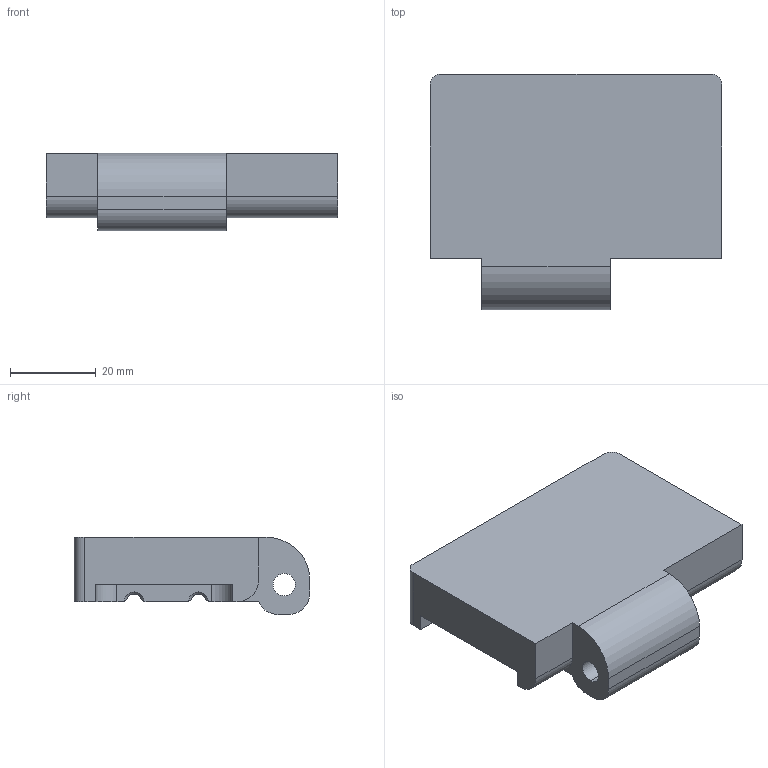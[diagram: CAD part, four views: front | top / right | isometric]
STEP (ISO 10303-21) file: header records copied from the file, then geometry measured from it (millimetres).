
FILE_DESCRIPTION (( 'STEP AP214' ), '1' );
FILE_NAME ('GZ29.18_V1上压块.STEP', '2021-05-09T07:30:05', ( '微软中国' ), ( 'Microsoft' ), 'SwSTEP 2.0', 'SolidWorks 2017', '' );
FILE_SCHEMA (( 'AUTOMOTIVE_DESIGN' ));
Length unit declared in the file: millimetre
Products named in the file (1): GZ29.18_V1奻揤輸
Bounding box: 68 x 55 x 18 mm (x, y, z)
Volume: 43054.7 mm3; surface area: 11220 mm2
Topology: 1 solids, 1 shells, 55 faces, 154 edges, 101 vertices
Faces by surface type: plane 22, cylinder 17, cone 12, bspline 4
Entity records: 1958 total; most frequent: CARTESIAN_POINT 509, ORIENTED_EDGE 304, DIRECTION 276, EDGE_CURVE 152, VERTEX_POINT 101, AXIS2_PLACEMENT_3D 100, LINE 76, VECTOR 76
